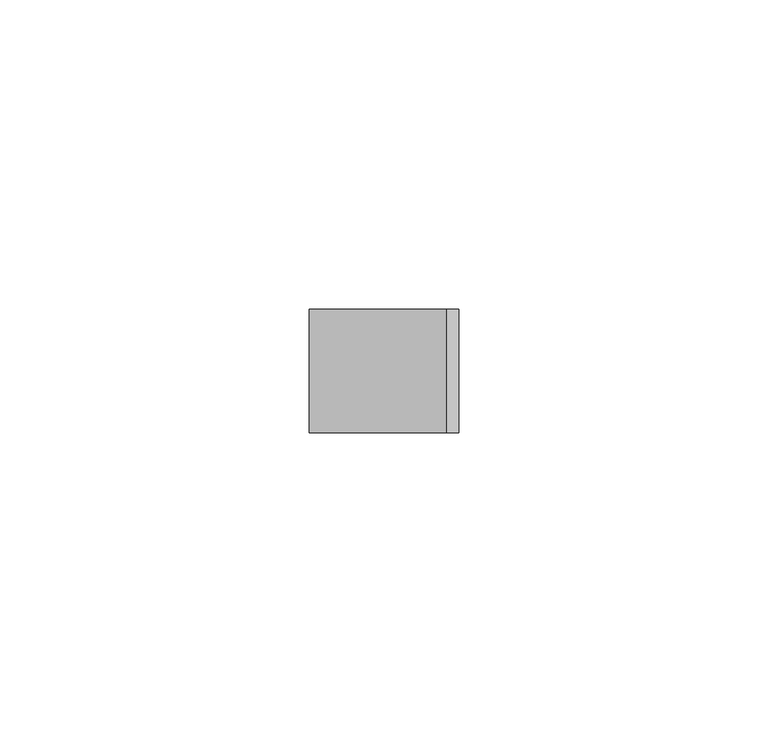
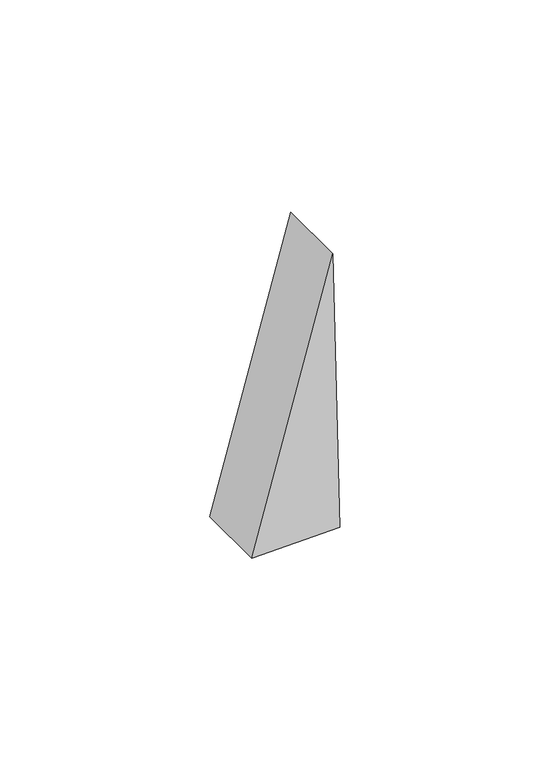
"""IFC4 building model written with IfcOpenShell, lengths in millimetres: plate geometry, 空系统嵌板 : 空."""

from ifc_helpers import new_model, si_unit, frame, origin, place, context, project, spatial, polyline, outline, extrude, source, transform, mapped, element, save


def plate_5d4698b8(model_context):
    return source(origin(), model_context, "Body", "SweptSolid", [
        extrude(outline(polyline([(0.0, -12.1102988), (0.5505204, 12.1102988), (80.7840603, 10.1699261), (0.0, -12.1102988)])), frame((0.0, -10.0, 0.0), z_axis=(0.0, 1.0, 0.0), x_axis=(0.0, 0.0, 1.0)), (0.0, 0.0, 1.0), 20.0),
    ])


if __name__ == "__main__":
    model = new_model("IFC4")
    model_context = context("Model", 3, world=origin())
    ifc_project = project(units=[si_unit("LENGTHUNIT", "METRE", prefix="MILLI")], contexts=[model_context])
    site = spatial("IfcSite", under=ifc_project)
    building = spatial("IfcBuilding", under=site)
    placement = place(None, origin())
    plate_shape = plate_5d4698b8(model_context)
    element("IfcPlate", 1, ObjectType="空系统嵌板 : 空", at=placement, inside=building, context=model_context, shape_type="MappedRepresentation", body=[
        mapped(plate_shape, transform((0.0, 0.0, 0.0), x_axis=(1.0, 0.0, 0.0), y_axis=(0.0, 1.0, 0.0), z_axis=(0.0, 0.0, 1.0))),
    ])
    save(model, "model.ifc")
